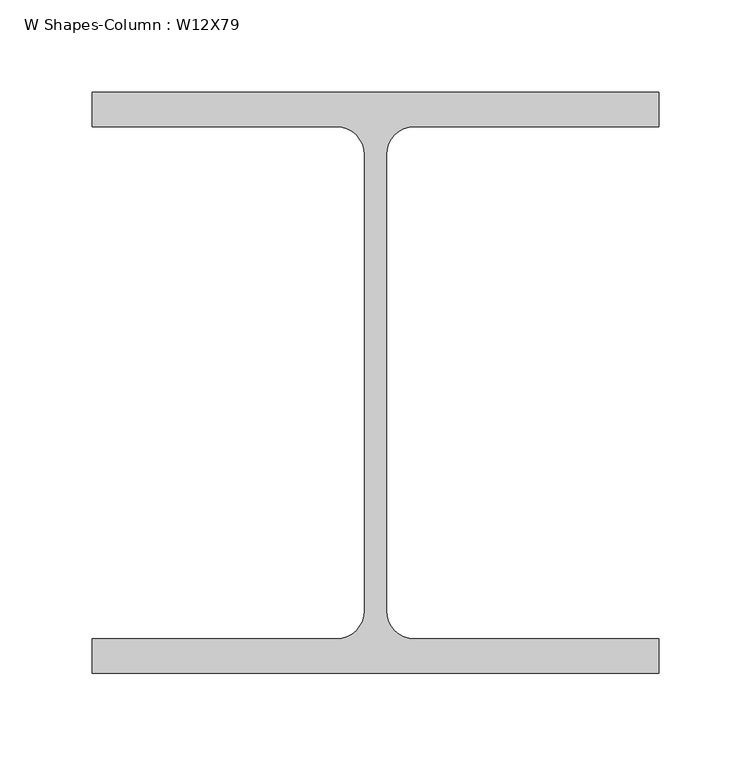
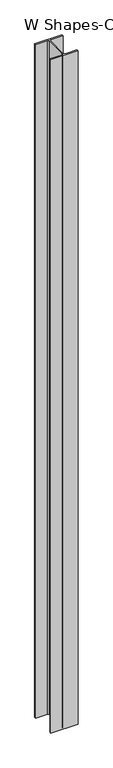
"""IFC4 building model written with IfcOpenShell, lengths in millimetres: column geometry, W Shapes-Column : W12X79."""

from ifc_helpers import new_model, si_unit, point, frame, frame_2d, origin, place, context, project, spatial, polyline, circle_curve, trimmed, segment, composite_curve, outline, extrude, source, transform, mapped, element, save


def w_shapes_column_w12x79_cd1dd4a6(model_context):
    return source(origin(), model_context, "Body", "SweptSolid", [
        extrude(outline(composite_curve([segment(polyline([(153.67, 157.48), (153.67, 138.811), (21.082, 138.811)]), True, "CONTINUOUS"), segment(trimmed(circle_curve(frame_2d((21.082, 123.698)), 15.113), [point((21.082, 138.811))], [point((5.969, 123.698))], True, "CARTESIAN"), True, "CONTINUOUS"), segment(polyline([(5.969, 123.698), (5.969, -123.698)]), True, "CONTINUOUS"), segment(trimmed(circle_curve(frame_2d((21.082, -123.698)), 15.113), [point((5.969, -123.698))], [point((21.082, -138.811))], True, "CARTESIAN"), True, "CONTINUOUS"), segment(polyline([(21.082, -138.811), (153.67, -138.811), (153.67, -157.48), (-153.67, -157.48), (-153.67, -138.811), (-21.082, -138.811)]), True, "CONTINUOUS"), segment(trimmed(circle_curve(frame_2d((-21.082, -123.698)), 15.113), [point((-21.082, -138.811))], [point((-5.969, -123.698))], True, "CARTESIAN"), True, "CONTINUOUS"), segment(polyline([(-5.969, -123.698), (-5.969, 123.698)]), True, "CONTINUOUS"), segment(trimmed(circle_curve(frame_2d((-21.082, 123.698)), 15.113), [point((-5.969, 123.698))], [point((-21.082, 138.811))], True, "CARTESIAN"), True, "CONTINUOUS"), segment(polyline([(-21.082, 138.811), (-153.67, 138.811), (-153.67, 157.48), (153.67, 157.48)]), True, "CONTINUOUS")], self_intersect=False)), frame((0.0, 0.0, -450.0), z_axis=(0.0, 0.0, 1.0), x_axis=(1.0, 0.0, 0.0)), (0.0, 0.0, 1.0), 8045.0),
    ])


if __name__ == "__main__":
    model = new_model("IFC4")
    model_context = context("Model", 3, world=origin())
    ifc_project = project(units=[si_unit("LENGTHUNIT", "METRE", prefix="MILLI")], contexts=[model_context])
    site = spatial("IfcSite", under=ifc_project)
    building = spatial("IfcBuilding", under=site)
    placement = place(None, origin())
    w_shapes_column_w12x79_shape = w_shapes_column_w12x79_cd1dd4a6(model_context)
    element("IfcColumn", 1, ObjectType="W Shapes-Column : W12X79", at=placement, inside=building, context=model_context, shape_type="MappedRepresentation", body=[
        mapped(w_shapes_column_w12x79_shape, transform((0.0, 0.0, 0.0), x_axis=(1.0, 0.0, 0.0), y_axis=(0.0, 1.0, 0.0), z_axis=(0.0, 0.0, 1.0))),
    ])
    save(model, "model.ifc")
